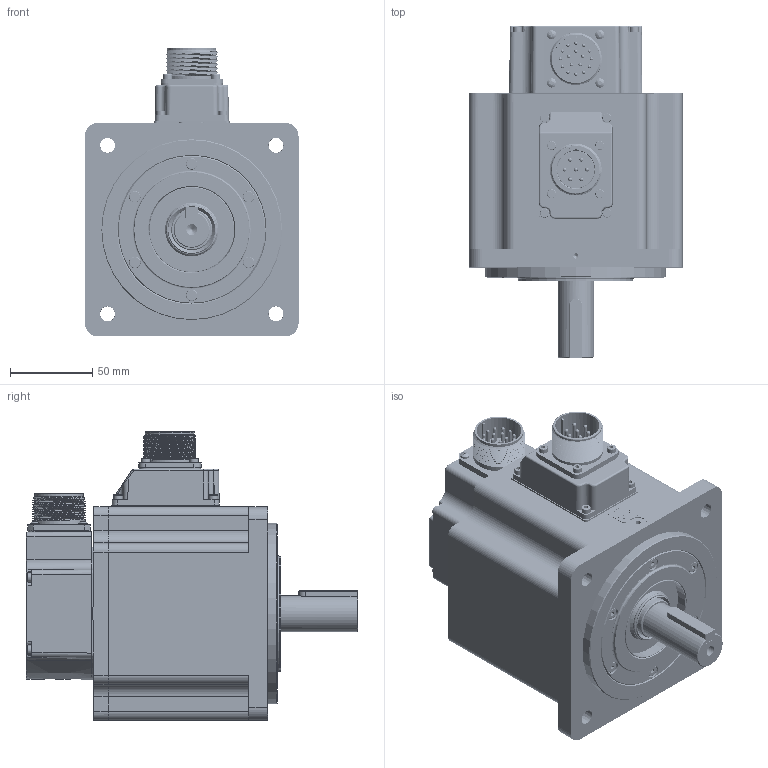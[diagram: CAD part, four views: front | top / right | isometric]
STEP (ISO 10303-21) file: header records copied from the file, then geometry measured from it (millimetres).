
FILE_DESCRIPTION( ( 'Unknown' ), '1' );
FILE_NAME( 'X:/05_Progetto TCE/010-TCE motor drawings/TCE130/Vuoti/TCE130 5A XX 3 A2 0 C3.stp', 'Unknown', ( 'Unknown' ), ( 'Unknown' ), 'PSStep 17.0.49', 'Unknown', ' ' );
FILE_SCHEMA( ( 'AUTOMOTIVE_DESIGN { 1 0 10303 214 1 1 1 1 }' ) );
Length unit declared in the file: millimetre
Products named in the file (69): U5160001_vuoto; 003799000580; 003303000370; 003303000373; 005117001750; 005911000150; cap-M3 nudo; 003120002513; 005911000201; back cover TCE100 + CN MIL; 003108015154; 005911000525; 005911000525-oa22; 005911000525-oa23; 005911000525-oa24; 001107000620; Assem1; 005204000002; 005204000001; 003155000301; 003103001509; 005204000003; 005113002005; 005119000340; 005123000600; 005123001528; 005911000430; 005911000430-oa0; 005911000430-oa1; 005911000430-oa2; 005911000430-oa3; 005911000430-oa4; 005911000430-oa5; 005911000430-oa6; 005911000430-oa7; 005911000430-oa8; 005911000493; 005911000493-oa9; 005911000493-oa10; 005911000493-oa11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
Assembly tree (75 placements, depth 3):
  Assem1
    005204000002
    005204000001
    003155000301
    003103001509
    005204000003
    005113002005
    005119000340
    005119000340
    005123000600
    005123000600
    005123000600
    005123000600
    005123000600
    005123000600
    005123000600
    005123001528
    005123001528
    005123001528
    005123001528
    005123001528
    005123001528
    005123001528
    005911000430
    005911000430-oa0
    005911000430-oa1
    005911000430-oa2
    005911000430-oa3
    005911000430-oa4
    005911000430-oa5
    005911000430-oa6
    005911000430-oa7
    005911000430-oa8
    005911000493
    005911000493-oa9
    005911000493-oa10
    005911000493-oa11
    005911003623
    005911003623-oa12
    005911003623-oa13
    005911003623-oa14
    005911003623-oa15
    005911003623-oa16
    005911003623-oa17
    005911003623-oa18
    005008000302-oa19
    005008000690-oa20
    005008000842-oa21
    003251022006
    003003050018
    back cover TCE100 + CN MIL
      003303000373
      003108015154
      005911000525
      005911000525-oa22
      005911000525-oa23
      005911000525-oa24
      001107000620
    U5160001_vuoto
      003799000580
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Bounding box: 130.3 x 202 x 175.8 mm (x, y, z)
Volume: 908541.7 mm3; surface area: 348649.4 mm2
Topology: 73 solids, 83 shells, 3007 faces, 7444 edges, 4794 vertices
Faces by surface type: plane 1526, cylinder 705, extrusion 233, cone 173, torus 154, bspline 144, sphere 72
Full cylindrical faces by diameter (mm): 2 x34, 2.224 x1, 2.4 x8, 2.459 x24, 2.5 x1, 2.6 x1, 2.8 x7, 2.9 x4, 3 x30, 3.048 x4, 3.2 x5, 3.242 x24, 3.5 x11, 3.6 x1, 3.7 x8, 3.8 x2, 4 x23, 4.134 x16, 4.5 x6, 4.7 x11, 5 x8, 5.1 x1, 5.5 x34, 5.6 x4, 5.8 x6, 6.647 x2, 7 x10, 8 x11, 8.5 x8, 10 x1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
Entity records: 129206 total; most frequent: CARTESIAN_POINT 41268, DIRECTION 12520, ORIENTED_EDGE 12474, EDGE_CURVE 6237, VERTEX_POINT 4431, AXIS2_PLACEMENT_3D 4386, EDGE_LOOP 3949, VECTOR 3748
